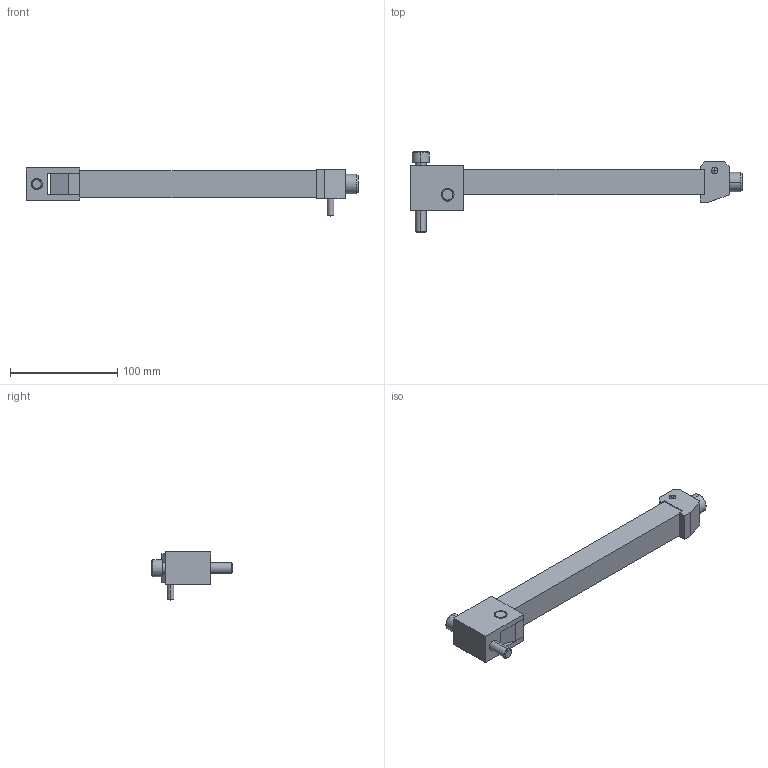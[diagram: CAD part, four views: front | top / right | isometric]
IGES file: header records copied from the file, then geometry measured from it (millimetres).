
Start section: START RECORD GO HERE.
Global section: file name: ZH90-3.igs; native system: DASSAULT SYSTEMES CATIA V5 R20 - www.3ds.com; preprocessor: CATIA Version 5 Release 20 ; author: Utente; organization: NB04-ASUS; date: 20210221.173550; units: millimetre
Bounding box: 309 x 75 x 44.7 mm (x, y, z)
Surface area: 56527.6 mm2 (no closed solid volume)
Topology: 0 solids, 0 shells, 127 faces, 684 edges, 674 vertices
Faces by surface type: plane 67, revolution 60
